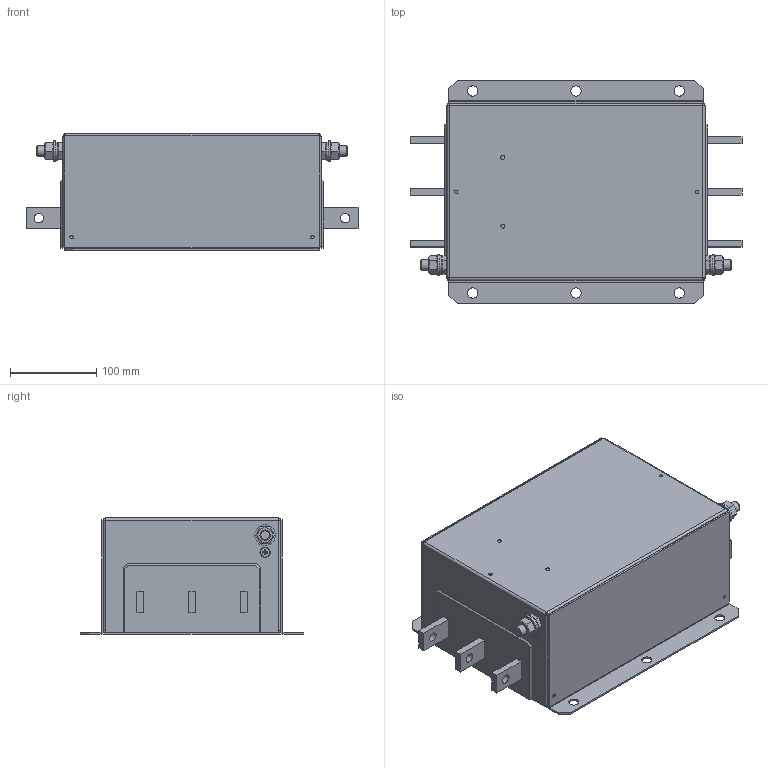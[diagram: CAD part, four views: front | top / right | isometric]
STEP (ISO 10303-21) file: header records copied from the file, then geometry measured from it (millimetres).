
FILE_DESCRIPTION(/* description */ ('raw material description'),/* implementation_level */ '2;1');
FILE_NAME(/* name */ 'P:\Construction\Filter_Marketing\FN\FN3359\FN3359-600-99\FN3359(HV)-600-99.stp',/* time_stamp */ '2017-09-20T12:10:08+02:00',/* author */ ('erika.jenzer'),/* organization */ ('Schaffner EMV AG'),/* preprocessor_version */ 'ST-DEVELOPER v16.5',/* originating_system */ 'Autodesk Inventor 2017',/* authorisation */ '');
FILE_SCHEMA (('AUTOMOTIVE_DESIGN { 1 0 10303 214 3 1 1 }'));
Length unit declared in the file: millimetre
Products named in the file (1): FN3359(HV)-600-99
Bounding box: 386 x 260 x 135 mm (x, y, z)
Volume: 846133.1 mm3; surface area: 643524.9 mm2
Topology: 2 solids, 2 shells, 636 faces, 1610 edges, 1030 vertices
Faces by surface type: plane 402, cylinder 204, cone 22, bspline 8
Full cylindrical faces by diameter (mm): 4 x6, 4.1 x18, 4.82 x2, 10.5 x6, 11 x2, 12 x10, 16.63 x2, 21.1 x2, 24 x4
Entity records: 19737 total; most frequent: CARTESIAN_POINT 3771, DIRECTION 3188, ORIENTED_EDGE 3084, EDGE_CURVE 1542, AXIS2_PLACEMENT_3D 1109, VERTEX_POINT 1024, LINE 970, VECTOR 970
